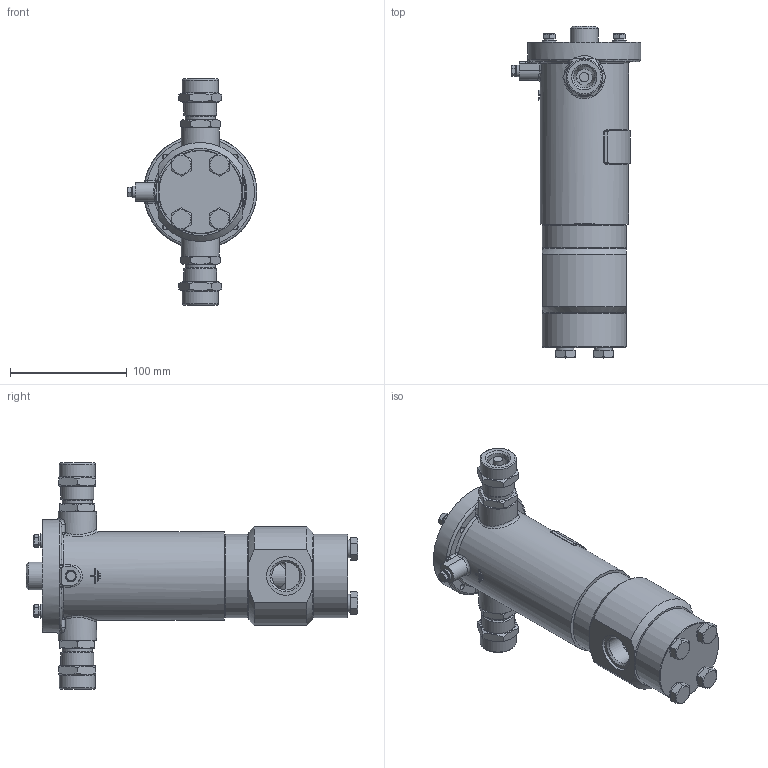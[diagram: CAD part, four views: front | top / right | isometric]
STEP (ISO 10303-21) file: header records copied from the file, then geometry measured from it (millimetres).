
FILE_DESCRIPTION(('STEP AP203'), '1');
FILE_NAME('ÑÅÍÑ-ÏÐ DN15PN250-ÍÎ-ÑÂ-G3_4-0.stp', '2018-10-01T10:05:39', ('Îðëîâ Å.Â.'), ('ÎÎÎ ÍÏÏ Ñåíñîð'), 'ASCON STEP Converter 1.3', 'Kompas 3D', '');
FILE_SCHEMA(('CONFIG_CONTROL_DESIGN','SUPPORT_RESOURCE_SCHEMA'));
Length unit declared in the file: millimetre
Products named in the file (1): 9
Bounding box: 111.2 x 284.9 x 194 mm (x, y, z)
Volume: 799320.1 mm3; surface area: 219476.7 mm2
Topology: 3 solids, 21 shells, 1769 faces, 4727 edges, 3089 vertices
Faces by surface type: cylinder 925, plane 660, cone 119, bspline 27, torus 22, extrusion 16
Full cylindrical faces by diameter (mm): 3.3 x2, 3.5 x2, 4.134 x1, 4.917 x4, 5 x1, 6 x7, 6.1 x1, 6.5 x4, 8 x4, 8.376 x4, 9 x1, 10 x5, 11 x4, 12 x4, 13 x2, 18.632 x2, 20 x4, 22 x2, 22.376 x2, 23.5 x2, 24 x3, 24.117 x2, 24.5 x2, 26 x4, 26.376 x2, 27 x1, 28 x2, 30 x1, 31 x2, 33 x4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
Entity records: 65866 total; most frequent: CARTESIAN_POINT 20483, DIRECTION 9884, ORIENTED_EDGE 9426, EDGE_CURVE 4713, AXIS2_PLACEMENT_3D 3782, VERTEX_POINT 3089, VECTOR 2320, LINE 2304
